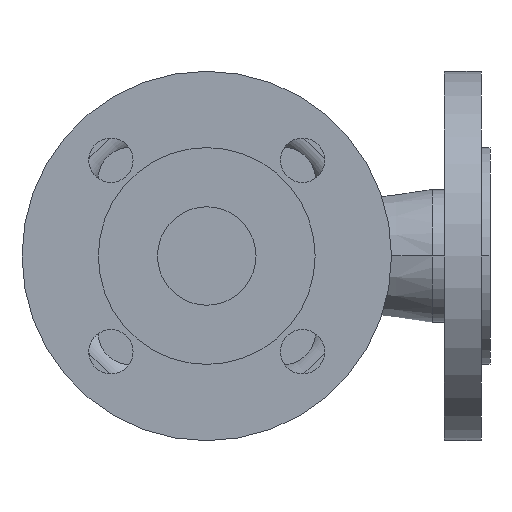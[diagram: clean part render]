
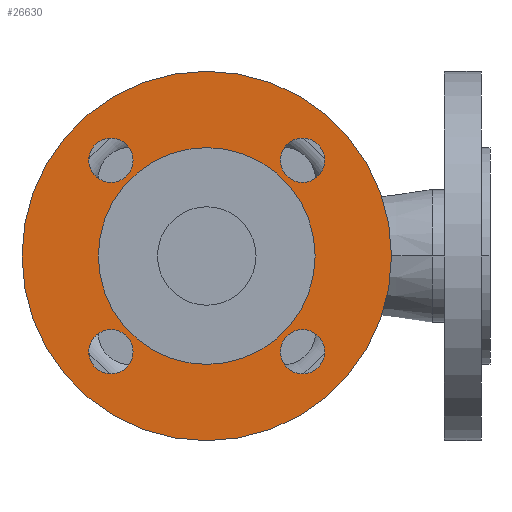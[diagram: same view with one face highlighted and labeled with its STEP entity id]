
A CAD part, front view. The second image highlights one B-rep face of the part: STEP entity #26630.
In plain terms, the highlighted planar face has unit normal (0, -1, 0).
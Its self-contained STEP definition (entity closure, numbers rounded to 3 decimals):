
#610=CARTESIAN_POINT('',(-44.,3.5,0.));
#620=VERTEX_POINT('',#610);
#780=CARTESIAN_POINT('',(44.,3.5,0.));
#790=VERTEX_POINT('',#780);
#820=CARTESIAN_POINT('',(0.,3.5,0.));
#830=DIRECTION('',(0.,-1.,0.));
#840=DIRECTION('',(-1.,0.,0.));
#850=AXIS2_PLACEMENT_3D('',#820,#830,#840);
#860=CIRCLE('',#850,44.);
#870=EDGE_CURVE('',#620,#790,#860,.T.);
#5150=CARTESIAN_POINT('',(-75.,3.5,0.));
#5160=VERTEX_POINT('',#5150);
#5320=CARTESIAN_POINT('',(75.,3.5,0.));
#5330=VERTEX_POINT('',#5320);
#5360=CARTESIAN_POINT('',(0.,3.5,0.));
#5370=DIRECTION('',(0.,1.,0.));
#5380=DIRECTION('',(1.,0.,0.));
#5390=AXIS2_PLACEMENT_3D('',#5360,#5370,#5380);
#5400=CIRCLE('',#5390,75.);
#5410=EDGE_CURVE('',#5160,#5330,#5400,.T.);
#5640=CARTESIAN_POINT('',(47.891,3.5,-38.891));
#5650=VERTEX_POINT('',#5640);
#5810=CARTESIAN_POINT('',(29.891,3.5,-38.891));
#5820=VERTEX_POINT('',#5810);
#5850=CARTESIAN_POINT('',(38.891,3.5,-38.891));
#5860=DIRECTION('',(0.,1.,0.));
#5870=DIRECTION('',(1.,0.,0.));
#5880=AXIS2_PLACEMENT_3D('',#5850,#5860,#5870);
#5890=CIRCLE('',#5880,9.);
#5900=EDGE_CURVE('',#5820,#5650,#5890,.T.);
#6130=CARTESIAN_POINT('',(29.891,3.5,38.891));
#6140=VERTEX_POINT('',#6130);
#6300=CARTESIAN_POINT('',(47.891,3.5,38.891));
#6310=VERTEX_POINT('',#6300);
#6340=CARTESIAN_POINT('',(38.891,3.5,38.891));
#6350=DIRECTION('',(0.,1.,0.));
#6360=DIRECTION('',(1.,0.,0.));
#6370=AXIS2_PLACEMENT_3D('',#6340,#6350,#6360);
#6380=CIRCLE('',#6370,9.);
#6390=EDGE_CURVE('',#6310,#6140,#6380,.T.);
#6620=CARTESIAN_POINT('',(-29.891,3.5,-38.891));
#6630=VERTEX_POINT('',#6620);
#6790=CARTESIAN_POINT('',(-47.891,3.5,-38.891));
#6800=VERTEX_POINT('',#6790);
#6830=CARTESIAN_POINT('',(-38.891,3.5,-38.891));
#6840=DIRECTION('',(0.,1.,0.));
#6850=DIRECTION('',(1.,0.,0.));
#6860=AXIS2_PLACEMENT_3D('',#6830,#6840,#6850);
#6870=CIRCLE('',#6860,9.);
#6880=EDGE_CURVE('',#6800,#6630,#6870,.T.);
#7110=CARTESIAN_POINT('',(-29.891,3.5,38.891));
#7120=VERTEX_POINT('',#7110);
#7280=CARTESIAN_POINT('',(-47.891,3.5,38.891));
#7290=VERTEX_POINT('',#7280);
#7320=CARTESIAN_POINT('',(-38.891,3.5,38.891));
#7330=DIRECTION('',(0.,1.,0.));
#7340=DIRECTION('',(1.,0.,0.));
#7350=AXIS2_PLACEMENT_3D('',#7320,#7330,#7340);
#7360=CIRCLE('',#7350,9.);
#7370=EDGE_CURVE('',#7290,#7120,#7360,.T.);
#26280=CARTESIAN_POINT('',(0.,3.5,0.));
#26290=DIRECTION('',(0.,1.,0.));
#26300=DIRECTION('',(0.,0.,1.));
#26310=AXIS2_PLACEMENT_3D('',#26280,#26290,#26300);
#26320=PLANE('',#26310);
#26330=EDGE_CURVE('',#7120,#7290,#7360,.T.);
#26340=ORIENTED_EDGE('',*,*,#26330,.T.);
#26350=ORIENTED_EDGE('',*,*,#7370,.T.);
#26360=EDGE_LOOP('',(#26350,#26340));
#26370=FACE_BOUND('',#26360,.T.);
#26380=EDGE_CURVE('',#6630,#6800,#6870,.T.);
#26390=ORIENTED_EDGE('',*,*,#26380,.T.);
#26400=ORIENTED_EDGE('',*,*,#6880,.T.);
#26410=EDGE_LOOP('',(#26400,#26390));
#26420=FACE_BOUND('',#26410,.T.);
#26430=EDGE_CURVE('',#6140,#6310,#6380,.T.);
#26440=ORIENTED_EDGE('',*,*,#26430,.T.);
#26450=ORIENTED_EDGE('',*,*,#6390,.T.);
#26460=EDGE_LOOP('',(#26450,#26440));
#26470=FACE_BOUND('',#26460,.T.);
#26480=EDGE_CURVE('',#5650,#5820,#5890,.T.);
#26490=ORIENTED_EDGE('',*,*,#26480,.T.);
#26500=ORIENTED_EDGE('',*,*,#5900,.T.);
#26510=EDGE_LOOP('',(#26500,#26490));
#26520=FACE_BOUND('',#26510,.T.);
#26530=EDGE_CURVE('',#5330,#5160,#5400,.T.);
#26540=ORIENTED_EDGE('',*,*,#26530,.F.);
#26550=ORIENTED_EDGE('',*,*,#5410,.F.);
#26560=EDGE_LOOP('',(#26550,#26540));
#26570=FACE_OUTER_BOUND('',#26560,.T.);
#26580=EDGE_CURVE('',#790,#620,#860,.T.);
#26590=ORIENTED_EDGE('',*,*,#26580,.F.);
#26600=ORIENTED_EDGE('',*,*,#870,.F.);
#26610=EDGE_LOOP('',(#26600,#26590));
#26620=FACE_BOUND('',#26610,.T.);
#26630=ADVANCED_FACE('',(#26370,#26420,#26470,#26520,#26570,#26620),
#26320,.F.);
